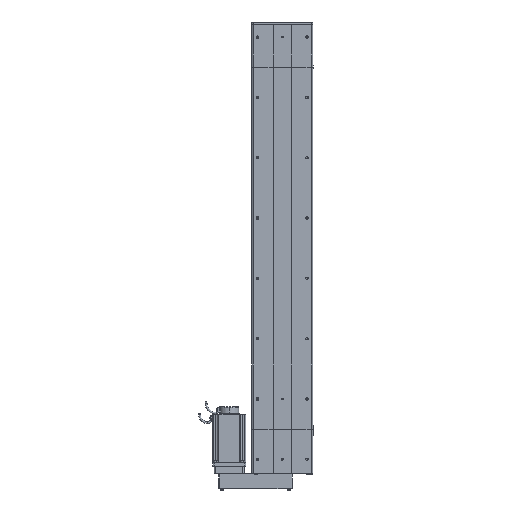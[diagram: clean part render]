
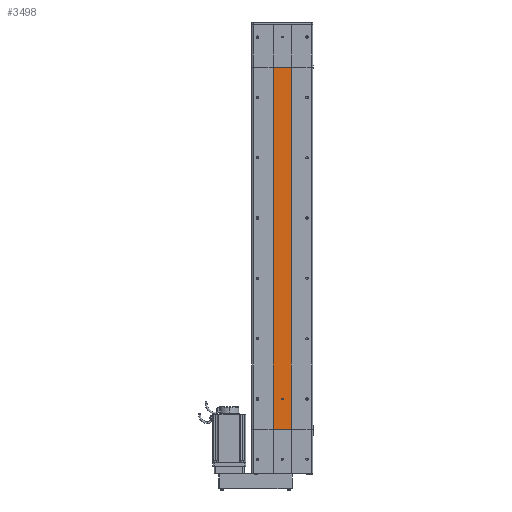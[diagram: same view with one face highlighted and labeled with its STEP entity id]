
A CAD part, front view. The second image highlights one B-rep face of the part: STEP entity #3498.
In plain terms, the highlighted planar face has unit normal (0, -1, 0).
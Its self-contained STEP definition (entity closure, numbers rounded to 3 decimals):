
#3301 = VERTEX_POINT ( 'NONE', #11647 ) ;
#3325 = VERTEX_POINT ( 'NONE', #11517 ) ;
#3364 = EDGE_CURVE ( 'NONE', #3325, #3301, #11893, .T. ) ;
#3431 = ORIENTED_EDGE ( 'NONE', *, *, #3450, .F. ) ;
#3448 = ORIENTED_EDGE ( 'NONE', *, *, #3637, .F. ) ;
#3450 = EDGE_CURVE ( 'NONE', #58690, #58711, #11996, .T. ) ;
#3498 = ADVANCED_FACE ( 'NONE', ( #12342, #12177 ), #12323, .F. ) ;
#3518 = ORIENTED_EDGE ( 'NONE', *, *, #58657, .F. ) ;
#3523 = ORIENTED_EDGE ( 'NONE', *, *, #3684, .T. ) ;
#3524 = EDGE_LOOP ( 'NONE', ( #3525, #3448, #3685, #3523 ) ) ;
#3525 = ORIENTED_EDGE ( 'NONE', *, *, #6164, .T. ) ;
#3573 = EDGE_LOOP ( 'NONE', ( #3431, #3518 ) ) ;
#3637 = EDGE_CURVE ( 'NONE', #3301, #6029, #12406, .T. ) ;
#3684 = EDGE_CURVE ( 'NONE', #3325, #6128, #12422, .T. ) ;
#3685 = ORIENTED_EDGE ( 'NONE', *, *, #3364, .F. ) ;
#6029 = VERTEX_POINT ( 'NONE', #20021 ) ;
#6128 = VERTEX_POINT ( 'NONE', #20405 ) ;
#6164 = EDGE_CURVE ( 'NONE', #6128, #6029, #20386, .T. ) ;
#11517 = CARTESIAN_POINT ( 'NONE',  ( 30., -32.5, 0. ) ) ;
#11647 = CARTESIAN_POINT ( 'NONE',  ( -30., -32.5, 0. ) ) ;
#11889 = DIRECTION ( 'NONE',  ( -1., 0., 0. ) ) ;
#11890 = VECTOR ( 'NONE', #11889, 1000. ) ;
#11891 = CARTESIAN_POINT ( 'NONE',  ( -30., -32.5, 0. ) ) ;
#11893 = LINE ( 'NONE', #11891, #11890 ) ;
#11940 = DIRECTION ( 'NONE',  ( 0., 0., -1. ) ) ;
#11941 = DIRECTION ( 'NONE',  ( 0., -1., 0. ) ) ;
#11942 = CARTESIAN_POINT ( 'NONE',  ( 0., -32.5, 100. ) ) ;
#11943 = AXIS2_PLACEMENT_3D ( 'NONE', #11942, #11941, #11940 ) ;
#11996 = CIRCLE ( 'NONE', #11943, 3. ) ;
#12176 = CARTESIAN_POINT ( 'NONE',  ( -30., -32.5, 0. ) ) ;
#12177 = FACE_OUTER_BOUND ( 'NONE', #3524, .T. ) ;
#12323 = PLANE ( 'NONE',  #12341 ) ;
#12341 = AXIS2_PLACEMENT_3D ( 'NONE', #12176, #12344, #12343 ) ;
#12342 = FACE_BOUND ( 'NONE', #3573, .T. ) ;
#12343 = DIRECTION ( 'NONE',  ( 0., 0., 1. ) ) ;
#12344 = DIRECTION ( 'NONE',  ( 0., 1., 0. ) ) ;
#12403 = DIRECTION ( 'NONE',  ( 0., 0., 1. ) ) ;
#12404 = VECTOR ( 'NONE', #12403, 1000. ) ;
#12405 = CARTESIAN_POINT ( 'NONE',  ( -30., -32.5, 0. ) ) ;
#12406 = LINE ( 'NONE', #12405, #12404 ) ;
#12419 = DIRECTION ( 'NONE',  ( 0., 0., 1. ) ) ;
#12420 = VECTOR ( 'NONE', #12419, 1000. ) ;
#12421 = CARTESIAN_POINT ( 'NONE',  ( 30., -32.5, 0. ) ) ;
#12422 = LINE ( 'NONE', #12421, #12420 ) ;
#20021 = CARTESIAN_POINT ( 'NONE',  ( -30., -32.5, 1200. ) ) ;
#20335 = DIRECTION ( 'NONE',  ( -1., 0., 0. ) ) ;
#20336 = CARTESIAN_POINT ( 'NONE',  ( -30., -32.5, 1200. ) ) ;
#20386 = LINE ( 'NONE', #20336, #20411 ) ;
#20405 = CARTESIAN_POINT ( 'NONE',  ( 30., -32.5, 1200. ) ) ;
#20411 = VECTOR ( 'NONE', #20335, 1000. ) ;
#47111 = CIRCLE ( 'NONE', #47185, 3. ) ;
#47185 = AXIS2_PLACEMENT_3D ( 'NONE', #47396, #47332, #47331 ) ;
#47329 = CARTESIAN_POINT ( 'NONE',  ( 0., -32.5, 97. ) ) ;
#47331 = DIRECTION ( 'NONE',  ( 0., 0., -1. ) ) ;
#47332 = DIRECTION ( 'NONE',  ( 0., -1., 0. ) ) ;
#47396 = CARTESIAN_POINT ( 'NONE',  ( 0., -32.5, 100. ) ) ;
#58657 = EDGE_CURVE ( 'NONE', #58711, #58690, #47111, .T. ) ;
#58690 = VERTEX_POINT ( 'NONE', #47329 ) ;
#58711 = VERTEX_POINT ( 'NONE', #66131 ) ;
#66131 = CARTESIAN_POINT ( 'NONE',  ( 0., -32.5, 103. ) ) ;
